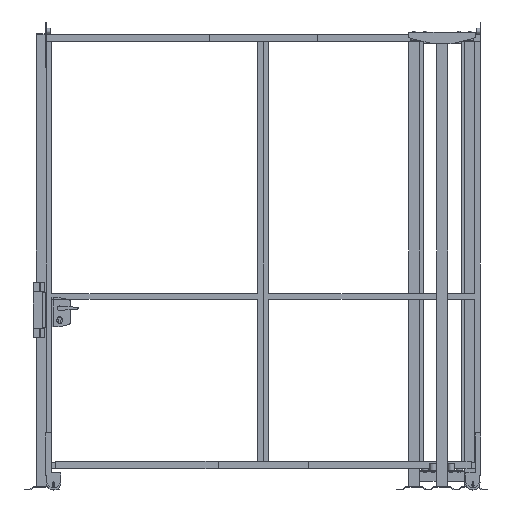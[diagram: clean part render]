
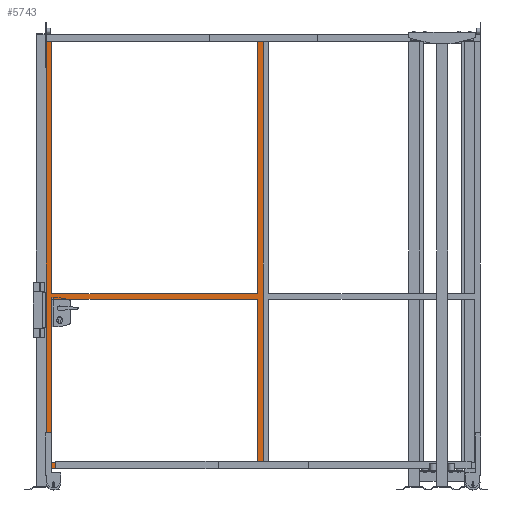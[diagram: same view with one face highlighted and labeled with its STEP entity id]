
A CAD part, front view. The second image highlights one B-rep face of the part: STEP entity #5743.
In plain terms, the highlighted planar face has unit normal (0, -1, 0).
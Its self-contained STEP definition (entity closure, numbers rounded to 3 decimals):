
#447=FACE_BOUND('',#946,.T.);
#448=FACE_BOUND('',#947,.T.);
#495=FACE_OUTER_BOUND('',#945,.T.);
#945=EDGE_LOOP('',(#3234,#3235,#3236,#3237));
#946=EDGE_LOOP('',(#3238,#3239,#3240,#3241));
#947=EDGE_LOOP('',(#3242,#3243,#3244,#3245));
#1437=VERTEX_POINT('',#11676);
#1439=VERTEX_POINT('',#11679);
#1442=VERTEX_POINT('',#11686);
#1444=VERTEX_POINT('',#11690);
#1445=VERTEX_POINT('',#11694);
#1447=VERTEX_POINT('',#11700);
#1448=VERTEX_POINT('',#11701);
#1449=VERTEX_POINT('',#11703);
#1450=VERTEX_POINT('',#11705);
#1451=VERTEX_POINT('',#11708);
#1452=VERTEX_POINT('',#11710);
#1453=VERTEX_POINT('',#11713);
#2156=EDGE_CURVE('',#1437,#1439,#6590,.T.);
#2162=EDGE_CURVE('',#1444,#1442,#6596,.T.);
#2163=EDGE_CURVE('',#1445,#1442,#6597,.T.);
#2166=EDGE_CURVE('',#1447,#1448,#6600,.T.);
#2167=EDGE_CURVE('',#1449,#1448,#6601,.T.);
#2168=EDGE_CURVE('',#1450,#1449,#6602,.T.);
#2169=EDGE_CURVE('',#1447,#1450,#6603,.T.);
#2170=EDGE_CURVE('',#1437,#1451,#6604,.T.);
#2171=EDGE_CURVE('',#1451,#1452,#6605,.T.);
#2172=EDGE_CURVE('',#1452,#1439,#6606,.T.);
#2173=EDGE_CURVE('',#1444,#1453,#6607,.T.);
#2174=EDGE_CURVE('',#1453,#1445,#6608,.T.);
#3234=ORIENTED_EDGE('',*,*,#2166,.T.);
#3235=ORIENTED_EDGE('',*,*,#2167,.F.);
#3236=ORIENTED_EDGE('',*,*,#2168,.F.);
#3237=ORIENTED_EDGE('',*,*,#2169,.F.);
#3238=ORIENTED_EDGE('',*,*,#2170,.T.);
#3239=ORIENTED_EDGE('',*,*,#2171,.T.);
#3240=ORIENTED_EDGE('',*,*,#2172,.T.);
#3241=ORIENTED_EDGE('',*,*,#2156,.F.);
#3242=ORIENTED_EDGE('',*,*,#2162,.F.);
#3243=ORIENTED_EDGE('',*,*,#2173,.T.);
#3244=ORIENTED_EDGE('',*,*,#2174,.T.);
#3245=ORIENTED_EDGE('',*,*,#2163,.T.);
#5359=PLANE('',#8667);
#5743=ADVANCED_FACE('',(#495,#447,#448),#5359,.F.);
#6590=LINE('',#11680,#7627);
#6596=LINE('',#11692,#7633);
#6597=LINE('',#11695,#7634);
#6600=LINE('',#11702,#7637);
#6601=LINE('',#11704,#7638);
#6602=LINE('',#11706,#7639);
#6603=LINE('',#11707,#7640);
#6604=LINE('',#11709,#7641);
#6605=LINE('',#11711,#7642);
#6606=LINE('',#11712,#7643);
#6607=LINE('',#11714,#7644);
#6608=LINE('',#11715,#7645);
#7627=VECTOR('',#9327,1.);
#7633=VECTOR('',#9335,1.);
#7634=VECTOR('',#9338,1.);
#7637=VECTOR('',#9343,1.);
#7638=VECTOR('',#9344,1.);
#7639=VECTOR('',#9345,1.);
#7640=VECTOR('',#9346,1.);
#7641=VECTOR('',#9347,1.);
#7642=VECTOR('',#9348,1.);
#7643=VECTOR('',#9349,1.);
#7644=VECTOR('',#9350,1.);
#7645=VECTOR('',#9351,1.);
#8667=AXIS2_PLACEMENT_3D('',#11699,#9341,#9342);
#9327=DIRECTION('',(1.,0.,0.));
#9335=DIRECTION('',(-1.,0.,0.));
#9338=DIRECTION('',(0.,0.,1.));
#9341=DIRECTION('center_axis',(0.,1.,0.));
#9342=DIRECTION('ref_axis',(0.,0.,1.));
#9343=DIRECTION('',(0.,0.,-1.));
#9344=DIRECTION('',(-1.,0.,0.));
#9345=DIRECTION('',(0.,0.,-1.));
#9346=DIRECTION('',(1.,0.,0.));
#9347=DIRECTION('',(0.,0.,1.));
#9348=DIRECTION('',(1.,0.,0.));
#9349=DIRECTION('',(0.,0.,-1.));
#9350=DIRECTION('',(0.,0.,-1.));
#9351=DIRECTION('',(-1.,0.,0.));
#11676=CARTESIAN_POINT('',(30.,0.,965.));
#11679=CARTESIAN_POINT('',(1170.,0.,965.));
#11680=CARTESIAN_POINT('',(600.,0.,965.));
#11686=CARTESIAN_POINT('',(30.,0.,935.));
#11690=CARTESIAN_POINT('',(1170.,0.,935.));
#11692=CARTESIAN_POINT('',(600.,0.,935.));
#11694=CARTESIAN_POINT('',(30.,0.,30.));
#11695=CARTESIAN_POINT('',(30.,0.,1200.));
#11699=CARTESIAN_POINT('Origin',(600.,0.,1200.));
#11700=CARTESIAN_POINT('',(0.,0.,2400.));
#11701=CARTESIAN_POINT('',(0.,0.,0.));
#11702=CARTESIAN_POINT('',(0.,0.,1200.));
#11703=CARTESIAN_POINT('',(1200.,0.,0.));
#11704=CARTESIAN_POINT('',(600.,0.,0.));
#11705=CARTESIAN_POINT('',(1200.,0.,2400.));
#11706=CARTESIAN_POINT('',(1200.,0.,1200.));
#11707=CARTESIAN_POINT('',(600.,0.,2400.));
#11708=CARTESIAN_POINT('',(30.,0.,2370.));
#11709=CARTESIAN_POINT('',(30.,0.,1200.));
#11710=CARTESIAN_POINT('',(1170.,0.,2370.));
#11711=CARTESIAN_POINT('',(600.,0.,2370.));
#11712=CARTESIAN_POINT('',(1170.,0.,1200.));
#11713=CARTESIAN_POINT('',(1170.,0.,30.));
#11714=CARTESIAN_POINT('',(1170.,0.,1200.));
#11715=CARTESIAN_POINT('',(600.,0.,30.));
